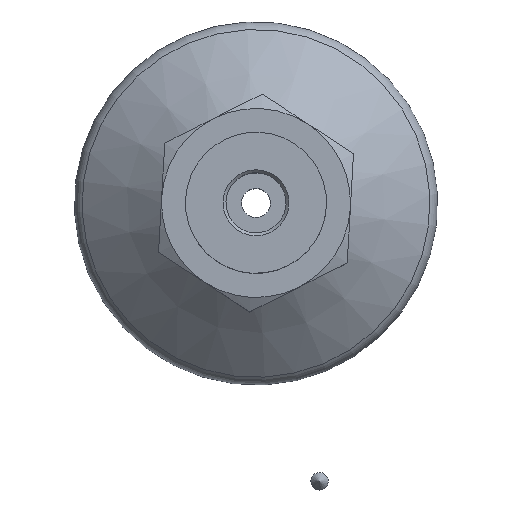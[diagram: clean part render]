
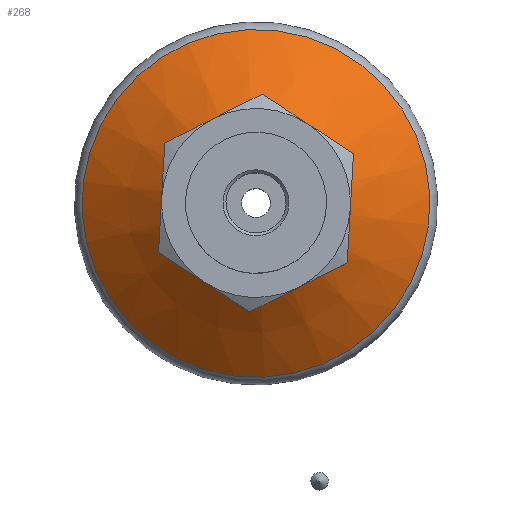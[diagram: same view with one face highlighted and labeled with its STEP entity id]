
A CAD part, top view. The second image highlights one B-rep face of the part: STEP entity #268.
In plain terms, the highlighted conical face has half-angle 50.047 degrees and reference radius 11.963 mm.
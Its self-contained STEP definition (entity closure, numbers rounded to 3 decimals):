
#268=ADVANCED_FACE('',(#513,#514),#515,.T.);
#513=FACE_OUTER_BOUND('',#741,.T.);
#514=FACE_BOUND('',#742,.T.);
#515=CONICAL_SURFACE('',#743,11.963,0.873);
#741=EDGE_LOOP('',(#1103));
#742=EDGE_LOOP('',(#1104));
#743=AXIS2_PLACEMENT_3D('',#1105,#1106,#1107);
#1103=ORIENTED_EDGE('',*,*,#1264,.T.);
#1104=ORIENTED_EDGE('',*,*,#1270,.F.);
#1105=CARTESIAN_POINT('',(0.,0.,10.75));
#1106=DIRECTION('',(0.0,0.,-1.0));
#1107=DIRECTION('',(0.0,1.0,0.));
#1264=EDGE_CURVE('',#1445,#1445,#1446,.T.);
#1270=EDGE_CURVE('',#1455,#1455,#1456,.T.);
#1445=VERTEX_POINT('',#1738);
#1446=CIRCLE('',#1739,11.963);
#1455=VERTEX_POINT('',#1748);
#1456=CIRCLE('',#1749,5.895);
#1738=CARTESIAN_POINT('',(0.,-11.963,10.75));
#1739=AXIS2_PLACEMENT_3D('',#1886,#1887,#1888);
#1748=CARTESIAN_POINT('',(0.,-5.895,15.834));
#1749=AXIS2_PLACEMENT_3D('',#1898,#1899,#1900);
#1886=CARTESIAN_POINT('',(0.,0.,10.75));
#1887=DIRECTION('',(0.0,0.,1.0));
#1888=DIRECTION('',(0.0,-1.0,0.));
#1898=CARTESIAN_POINT('',(0.,0.,15.834));
#1899=DIRECTION('',(0.0,0.,1.0));
#1900=DIRECTION('',(0.0,-1.0,0.));
